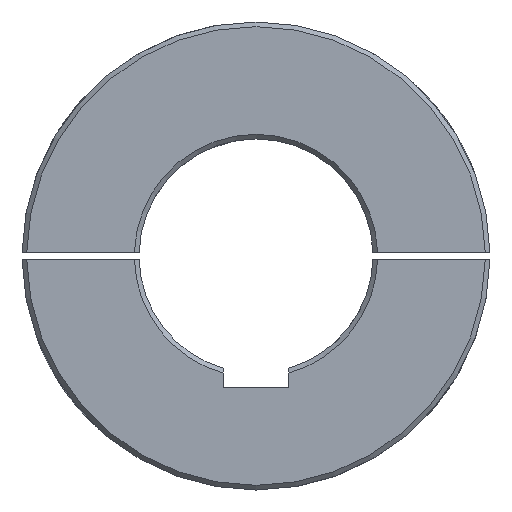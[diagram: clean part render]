
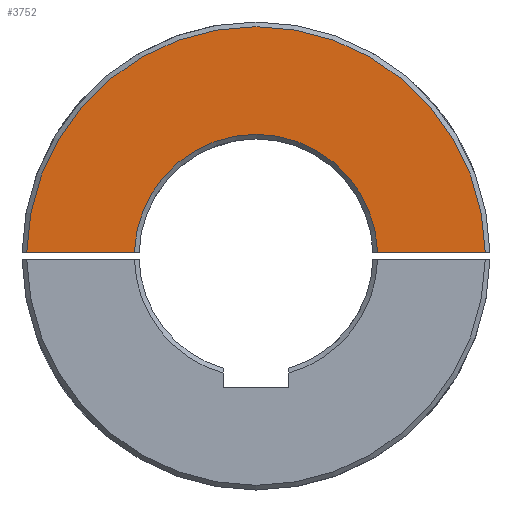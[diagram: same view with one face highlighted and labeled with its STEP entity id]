
A CAD part, front view. The second image highlights one B-rep face of the part: STEP entity #3752.
In plain terms, the highlighted planar face has unit normal (0, -1, 0).
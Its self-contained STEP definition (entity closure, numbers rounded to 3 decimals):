
#33 = EDGE_CURVE ( 'NONE', #1385, #4374, #840, .T. ) ;
#79 = FACE_OUTER_BOUND ( 'NONE', #3191, .T. ) ;
#351 = ORIENTED_EDGE ( 'NONE', *, *, #3953, .T. ) ;
#361 = CARTESIAN_POINT ( 'NONE',  ( 51.978, 0., 1.5 ) ) ;
#468 = DIRECTION ( 'NONE',  ( 0., 0., 1. ) ) ;
#549 = VERTEX_POINT ( 'NONE', #361 ) ;
#638 = CIRCLE ( 'NONE', #2633, 98. ) ;
#788 = AXIS2_PLACEMENT_3D ( 'NONE', #4178, #3471, #3493 ) ;
#840 = LINE ( 'NONE', #1582, #1406 ) ;
#981 = ORIENTED_EDGE ( 'NONE', *, *, #33, .F. ) ;
#1316 = DIRECTION ( 'NONE',  ( 0., -1., 0. ) ) ;
#1385 = VERTEX_POINT ( 'NONE', #2087 ) ;
#1406 = VECTOR ( 'NONE', #2713, 1000. ) ;
#1480 = VECTOR ( 'NONE', #3949, 1000. ) ;
#1582 = CARTESIAN_POINT ( 'NONE',  ( 105., 0., 1.5 ) ) ;
#1594 = VERTEX_POINT ( 'NONE', #2422 ) ;
#1854 = CARTESIAN_POINT ( 'NONE',  ( -97.989, 0., 1.5 ) ) ;
#2013 = CIRCLE ( 'NONE', #4662, 52. ) ;
#2046 = ORIENTED_EDGE ( 'NONE', *, *, #3248, .T. ) ;
#2087 = CARTESIAN_POINT ( 'NONE',  ( -51.978, 0., 1.5 ) ) ;
#2422 = CARTESIAN_POINT ( 'NONE',  ( 97.989, 0., 1.5 ) ) ;
#2505 = CARTESIAN_POINT ( 'NONE',  ( 105., 0., 1.5 ) ) ;
#2633 = AXIS2_PLACEMENT_3D ( 'NONE', #3087, #1316, #3840 ) ;
#2713 = DIRECTION ( 'NONE',  ( -1., 0., 0. ) ) ;
#2717 = CARTESIAN_POINT ( 'NONE',  ( 0., 0., 0. ) ) ;
#3087 = CARTESIAN_POINT ( 'NONE',  ( 0., 0., 0. ) ) ;
#3191 = EDGE_LOOP ( 'NONE', ( #351, #981, #2046, #3735 ) ) ;
#3248 = EDGE_CURVE ( 'NONE', #1385, #549, #2013, .T. ) ;
#3315 = LINE ( 'NONE', #2505, #1480 ) ;
#3471 = DIRECTION ( 'NONE',  ( 0., 1., 0. ) ) ;
#3493 = DIRECTION ( 'NONE',  ( 0., 0., 1. ) ) ;
#3562 = EDGE_CURVE ( 'NONE', #1594, #549, #3315, .T. ) ;
#3735 = ORIENTED_EDGE ( 'NONE', *, *, #3562, .F. ) ;
#3752 = ADVANCED_FACE ( 'NONE', ( #79 ), #4430, .F. ) ;
#3840 = DIRECTION ( 'NONE',  ( 0., 0., 1. ) ) ;
#3949 = DIRECTION ( 'NONE',  ( -1., 0., 0. ) ) ;
#3953 = EDGE_CURVE ( 'NONE', #1594, #4374, #638, .T. ) ;
#4116 = DIRECTION ( 'NONE',  ( 0., 1., 0. ) ) ;
#4178 = CARTESIAN_POINT ( 'NONE',  ( 0., 0., 0. ) ) ;
#4374 = VERTEX_POINT ( 'NONE', #1854 ) ;
#4430 = PLANE ( 'NONE',  #788 ) ;
#4662 = AXIS2_PLACEMENT_3D ( 'NONE', #2717, #4116, #468 ) ;
